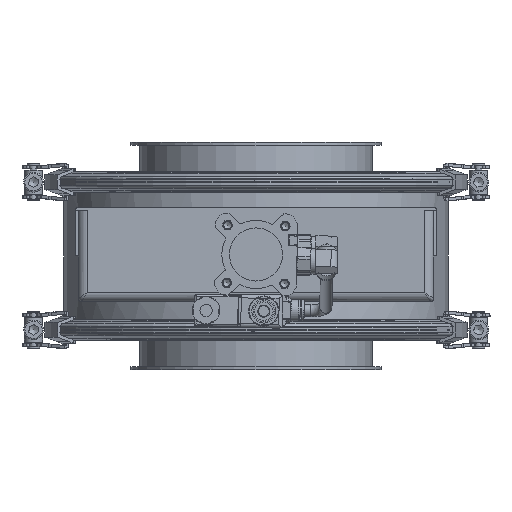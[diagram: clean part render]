
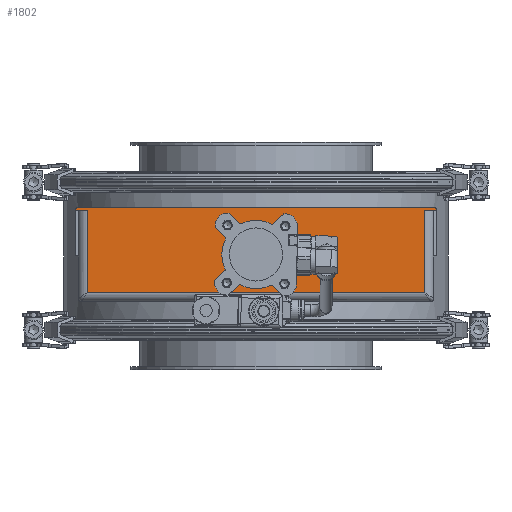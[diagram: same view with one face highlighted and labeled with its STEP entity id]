
A CAD part, left-side view. The second image highlights one B-rep face of the part: STEP entity #1802.
In plain terms, the highlighted planar face has unit normal (-1, 0, 0).
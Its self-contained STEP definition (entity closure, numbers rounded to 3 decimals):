
#859=CARTESIAN_POINT('',(-455.096,-111.,-24.));
#860=VERTEX_POINT('',#859);
#900=CARTESIAN_POINT('',(-455.096,-111.,30.0));
#901=VERTEX_POINT('',#900);
#909=CARTESIAN_POINT('',(-455.096,-111.,30.0));
#910=DIRECTION('',(0.0,0.0,-1.0));
#911=VECTOR('',#910,54.0);
#912=LINE('',#909,#911);
#913=EDGE_CURVE('',#901,#860,#912,.T.);
#965=CARTESIAN_POINT('',(-455.096,111.,-24.));
#966=VERTEX_POINT('',#965);
#990=CARTESIAN_POINT('',(-455.096,-111.,-24.));
#991=DIRECTION('',(0.0,1.0,0.0));
#992=VECTOR('',#991,222.0);
#993=LINE('',#990,#992);
#994=EDGE_CURVE('',#860,#966,#993,.T.);
#1012=CARTESIAN_POINT('',(-455.096,111.,30.0));
#1013=VERTEX_POINT('',#1012);
#1014=CARTESIAN_POINT('',(-455.096,111.,-24.));
#1015=DIRECTION('',(0.0,0.0,1.0));
#1016=VECTOR('',#1015,54.);
#1017=LINE('',#1014,#1016);
#1018=EDGE_CURVE('',#966,#1013,#1017,.T.);
#1261=CARTESIAN_POINT('',(-455.096,19.,-14.25));
#1262=VERTEX_POINT('',#1261);
#1263=CARTESIAN_POINT('',(-455.096,19.,-18.0));
#1264=DIRECTION('',(1.0,0.0,0.0));
#1265=DIRECTION('',(0.0,0.0,1.0));
#1266=AXIS2_PLACEMENT_3D('',#1263,#1264,#1265);
#1267=CIRCLE('',#1266,3.75);
#1268=EDGE_CURVE('',#1262,#1262,#1267,.T.);
#1310=CARTESIAN_POINT('',(-455.096,-19.,23.75));
#1311=VERTEX_POINT('',#1310);
#1312=CARTESIAN_POINT('',(-455.096,-19.,20.0));
#1313=DIRECTION('',(1.0,0.0,0.0));
#1314=DIRECTION('',(0.0,0.0,1.0));
#1315=AXIS2_PLACEMENT_3D('',#1312,#1313,#1314);
#1316=CIRCLE('',#1315,3.75);
#1317=EDGE_CURVE('',#1311,#1311,#1316,.T.);
#1359=CARTESIAN_POINT('',(-455.096,-19.,-14.25));
#1360=VERTEX_POINT('',#1359);
#1361=CARTESIAN_POINT('',(-455.096,-19.,-18.0));
#1362=DIRECTION('',(1.0,0.0,0.0));
#1363=DIRECTION('',(0.0,0.0,1.0));
#1364=AXIS2_PLACEMENT_3D('',#1361,#1362,#1363);
#1365=CIRCLE('',#1364,3.75);
#1366=EDGE_CURVE('',#1360,#1360,#1365,.T.);
#1408=CARTESIAN_POINT('',(-455.096,19.,23.75));
#1409=VERTEX_POINT('',#1408);
#1410=CARTESIAN_POINT('',(-455.096,19.,20.0));
#1411=DIRECTION('',(1.0,0.0,0.0));
#1412=DIRECTION('',(0.0,0.0,1.0));
#1413=AXIS2_PLACEMENT_3D('',#1410,#1411,#1412);
#1414=CIRCLE('',#1413,3.75);
#1415=EDGE_CURVE('',#1409,#1409,#1414,.T.);
#1457=CARTESIAN_POINT('',(-455.096,0.,19.5));
#1458=VERTEX_POINT('',#1457);
#1459=CARTESIAN_POINT('',(-455.096,0.,1.));
#1460=DIRECTION('',(1.0,0.0,0.0));
#1461=DIRECTION('',(0.0,0.0,1.0));
#1462=AXIS2_PLACEMENT_3D('',#1459,#1460,#1461);
#1463=CIRCLE('',#1462,18.5);
#1464=EDGE_CURVE('',#1458,#1458,#1463,.T.);
#1505=CARTESIAN_POINT('',(-455.096,119.,30.0));
#1506=VERTEX_POINT('',#1505);
#1507=CARTESIAN_POINT('',(-455.096,119.,30.0));
#1508=DIRECTION('',(0.0,-1.0,0.0));
#1509=VECTOR('',#1508,8.);
#1510=LINE('',#1507,#1509);
#1511=EDGE_CURVE('',#1506,#1013,#1510,.T.);
#1709=CARTESIAN_POINT('',(-455.096,-117.,32.0));
#1710=VERTEX_POINT('',#1709);
#1711=CARTESIAN_POINT('',(-455.096,-119.,30.0));
#1712=VERTEX_POINT('',#1711);
#1713=CARTESIAN_POINT('',(-455.096,-117.,30.));
#1714=DIRECTION('',(1.0,0.0,0.0));
#1715=DIRECTION('',(0.0,-0.707,0.707));
#1716=AXIS2_PLACEMENT_3D('',#1713,#1714,#1715);
#1717=CIRCLE('',#1716,2.);
#1718=EDGE_CURVE('',#1710,#1712,#1717,.T.);
#1754=CARTESIAN_POINT('',(-455.096,-119.,30.0));
#1755=DIRECTION('',(-1.0,0.0,0.0));
#1756=DIRECTION('',(0.0,0.0,1.0));
#1757=AXIS2_PLACEMENT_3D('',#1754,#1755,#1756);
#1758=PLANE('',#1757);
#1759=CARTESIAN_POINT('',(-455.096,-111.,30.0));
#1760=DIRECTION('',(0.0,-1.0,0.0));
#1761=VECTOR('',#1760,8.);
#1762=LINE('',#1759,#1761);
#1763=EDGE_CURVE('',#901,#1712,#1762,.T.);
#1764=ORIENTED_EDGE('',*,*,#1763,.T.);
#1765=ORIENTED_EDGE('',*,*,#1718,.F.);
#1766=CARTESIAN_POINT('',(-455.096,117.,32.0));
#1767=VERTEX_POINT('',#1766);
#1768=CARTESIAN_POINT('',(-455.096,-117.,32.0));
#1769=DIRECTION('',(0.0,1.0,0.0));
#1770=VECTOR('',#1769,234.);
#1771=LINE('',#1768,#1770);
#1772=EDGE_CURVE('',#1710,#1767,#1771,.T.);
#1773=ORIENTED_EDGE('',*,*,#1772,.T.);
#1774=CARTESIAN_POINT('',(-455.096,117.,30.));
#1775=DIRECTION('',(1.0,0.0,0.0));
#1776=DIRECTION('',(0.0,0.707,0.707));
#1777=AXIS2_PLACEMENT_3D('',#1774,#1775,#1776);
#1778=CIRCLE('',#1777,2.);
#1779=EDGE_CURVE('',#1506,#1767,#1778,.T.);
#1780=ORIENTED_EDGE('',*,*,#1779,.F.);
#1781=ORIENTED_EDGE('',*,*,#1511,.T.);
#1782=ORIENTED_EDGE('',*,*,#1018,.F.);
#1783=ORIENTED_EDGE('',*,*,#994,.F.);
#1784=ORIENTED_EDGE('',*,*,#913,.F.);
#1785=EDGE_LOOP('',(#1764,#1765,#1773,#1780,#1781,#1782,#1783,#1784));
#1786=FACE_OUTER_BOUND('',#1785,.T.);
#1787=ORIENTED_EDGE('',*,*,#1268,.T.);
#1788=EDGE_LOOP('',(#1787));
#1789=FACE_BOUND('',#1788,.T.);
#1790=ORIENTED_EDGE('',*,*,#1317,.T.);
#1791=EDGE_LOOP('',(#1790));
#1792=FACE_BOUND('',#1791,.T.);
#1793=ORIENTED_EDGE('',*,*,#1366,.T.);
#1794=EDGE_LOOP('',(#1793));
#1795=FACE_BOUND('',#1794,.T.);
#1796=ORIENTED_EDGE('',*,*,#1415,.T.);
#1797=EDGE_LOOP('',(#1796));
#1798=FACE_BOUND('',#1797,.T.);
#1799=ORIENTED_EDGE('',*,*,#1464,.T.);
#1800=EDGE_LOOP('',(#1799));
#1801=FACE_BOUND('',#1800,.T.);
#1802=ADVANCED_FACE('',(#1786,#1789,#1792,#1795,#1798,#1801),#1758,.T.);
